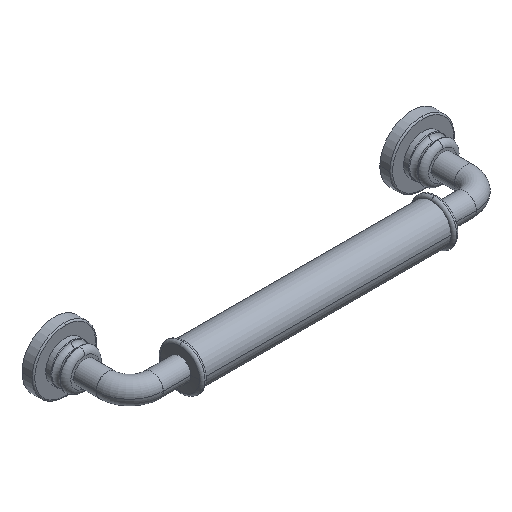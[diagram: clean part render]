
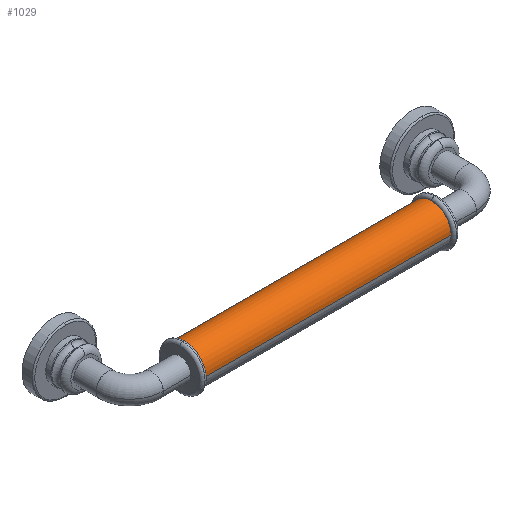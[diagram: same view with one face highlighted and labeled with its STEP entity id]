
A CAD part, isometric view. The second image highlights one B-rep face of the part: STEP entity #1029.
In plain terms, the highlighted cylindrical face has radius 7 mm (diameter 14 mm), a partial arc.
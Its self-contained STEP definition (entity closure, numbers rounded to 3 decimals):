
#763 = EDGE_CURVE( '', #1181, #1317, #1745, .T. );
#843 = VERTEX_POINT( '', #1833 );
#895 = EDGE_CURVE( '', #1317, #1185, #1890, .T. );
#1029 = ADVANCED_FACE( '', ( #2038 ), #2039, .T. );
#1115 = EDGE_CURVE( '', #843, #1181, #2133, .T. );
#1181 = VERTEX_POINT( '', #2208 );
#1185 = VERTEX_POINT( '', #2212 );
#1313 = EDGE_CURVE( '', #843, #1185, #2351, .T. );
#1317 = VERTEX_POINT( '', #2355 );
#1745 = CIRCLE( '', #2897, 7. );
#1833 = CARTESIAN_POINT( '', ( 20., -34., 0. ) );
#1890 = LINE( '', #3079, #3080 );
#2038 = FACE_OUTER_BOUND( '', #3270, .T. );
#2039 = CYLINDRICAL_SURFACE( '', #3271, 7. );
#2133 = LINE( '', #3393, #3394 );
#2208 = CARTESIAN_POINT( '', ( 108., -34., 0. ) );
#2212 = CARTESIAN_POINT( '', ( 20., -20., 0. ) );
#2351 = CIRCLE( '', #3702, 7. );
#2355 = CARTESIAN_POINT( '', ( 108., -20., 0. ) );
#2897 = AXIS2_PLACEMENT_3D( '', #4314, #4315, #4316 );
#3079 = CARTESIAN_POINT( '', ( 64., -20., 0. ) );
#3080 = VECTOR( '', #4518, 1. );
#3270 = EDGE_LOOP( '', ( #4722, #4723, #4724, #4725 ) );
#3271 = AXIS2_PLACEMENT_3D( '', #4726, #4727, #4728 );
#3393 = CARTESIAN_POINT( '', ( 64., -34., 0. ) );
#3394 = VECTOR( '', #4859, 1. );
#3702 = AXIS2_PLACEMENT_3D( '', #5133, #5134, #5135 );
#4314 = CARTESIAN_POINT( '', ( 108., -27., 0. ) );
#4315 = DIRECTION( '', ( -1., 0., 0. ) );
#4316 = DIRECTION( '', ( 0., 1., 0. ) );
#4518 = DIRECTION( '', ( -1., 0., 0. ) );
#4722 = ORIENTED_EDGE( '', *, *, #895, .T. );
#4723 = ORIENTED_EDGE( '', *, *, #1313, .F. );
#4724 = ORIENTED_EDGE( '', *, *, #1115, .T. );
#4725 = ORIENTED_EDGE( '', *, *, #763, .T. );
#4726 = CARTESIAN_POINT( '', ( 64., -27., 0. ) );
#4727 = DIRECTION( '', ( 1., 0., 0. ) );
#4728 = DIRECTION( '', ( 0., 1., 0. ) );
#4859 = DIRECTION( '', ( 1., 0., 0. ) );
#5133 = CARTESIAN_POINT( '', ( 20., -27., 0. ) );
#5134 = DIRECTION( '', ( -1., 0., 0. ) );
#5135 = DIRECTION( '', ( 0., 1., 0. ) );
